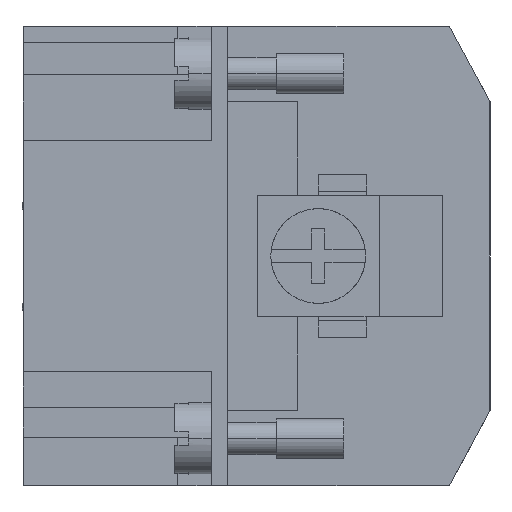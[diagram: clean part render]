
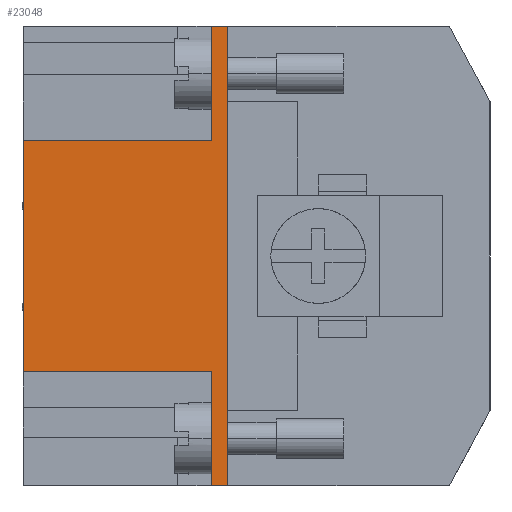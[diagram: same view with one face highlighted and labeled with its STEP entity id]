
A CAD part, left-side view. The second image highlights one B-rep face of the part: STEP entity #23048.
In plain terms, the highlighted planar face has unit normal (-1, 0, 0).
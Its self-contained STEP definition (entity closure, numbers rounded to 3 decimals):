
#640 = CARTESIAN_POINT ( 'NONE',  ( -55.5, -15.1, -17. ) ) ;
#699 = VECTOR ( 'NONE', #19934, 1000. ) ;
#1513 = PLANE ( 'NONE',  #20453 ) ;
#1731 = DIRECTION ( 'NONE',  ( 0., 0., 1. ) ) ;
#2489 = EDGE_CURVE ( 'NONE', #14979, #13708, #21863, .T. ) ;
#2505 = VERTEX_POINT ( 'NONE', #2883 ) ;
#2870 = VERTEX_POINT ( 'NONE', #8911 ) ;
#2883 = CARTESIAN_POINT ( 'NONE',  ( -55.5, -13.9, -17. ) ) ;
#3524 = VERTEX_POINT ( 'NONE', #22246 ) ;
#3917 = ORIENTED_EDGE ( 'NONE', *, *, #2489, .F. ) ;
#3918 = DIRECTION ( 'NONE',  ( -1., 0., 0. ) ) ;
#5048 = DIRECTION ( 'NONE',  ( 0., 1., 0. ) ) ;
#5177 = CARTESIAN_POINT ( 'NONE',  ( -55.5, -13.9, -17. ) ) ;
#5189 = LINE ( 'NONE', #13496, #699 ) ;
#5295 = EDGE_CURVE ( 'NONE', #2505, #15604, #6695, .T. ) ;
#5722 = ORIENTED_EDGE ( 'NONE', *, *, #25746, .T. ) ;
#5891 = CARTESIAN_POINT ( 'NONE',  ( -55.5, -34.108, 8.55 ) ) ;
#6140 = EDGE_CURVE ( 'NONE', #17540, #3524, #14940, .T. ) ;
#6695 = LINE ( 'NONE', #15081, #12566 ) ;
#6895 = VECTOR ( 'NONE', #8302, 1000. ) ;
#7066 = EDGE_LOOP ( 'NONE', ( #3917, #5722, #8315, #24806, #17286, #12179, #7461, #15233 ) ) ;
#7348 = VECTOR ( 'NONE', #1731, 1000. ) ;
#7461 = ORIENTED_EDGE ( 'NONE', *, *, #20566, .F. ) ;
#8087 = VECTOR ( 'NONE', #21952, 1000. ) ;
#8302 = DIRECTION ( 'NONE',  ( 0., 1., 0. ) ) ;
#8315 = ORIENTED_EDGE ( 'NONE', *, *, #6140, .F. ) ;
#8911 = CARTESIAN_POINT ( 'NONE',  ( -55.5, -15.1, 17. ) ) ;
#10736 = DIRECTION ( 'NONE',  ( 0., 0., -1. ) ) ;
#10847 = LINE ( 'NONE', #17477, #8087 ) ;
#11889 = CARTESIAN_POINT ( 'NONE',  ( -55.5, -13.9, -8.55 ) ) ;
#12179 = ORIENTED_EDGE ( 'NONE', *, *, #5295, .T. ) ;
#12300 = VECTOR ( 'NONE', #5048, 1000. ) ;
#12566 = VECTOR ( 'NONE', #19589, 1000. ) ;
#13496 = CARTESIAN_POINT ( 'NONE',  ( -55.5, -13.9, -17. ) ) ;
#13708 = VERTEX_POINT ( 'NONE', #18967 ) ;
#14898 = DIRECTION ( 'NONE',  ( 0., 1., 0. ) ) ;
#14940 = LINE ( 'NONE', #16459, #7348 ) ;
#14979 = VERTEX_POINT ( 'NONE', #24617 ) ;
#15081 = CARTESIAN_POINT ( 'NONE',  ( -55.5, -13.9, -17. ) ) ;
#15233 = ORIENTED_EDGE ( 'NONE', *, *, #19798, .F. ) ;
#15604 = VERTEX_POINT ( 'NONE', #640 ) ;
#16459 = CARTESIAN_POINT ( 'NONE',  ( -55.5, 0., 8.55 ) ) ;
#17165 = CARTESIAN_POINT ( 'NONE',  ( -55.5, -34.108, 8.55 ) ) ;
#17286 = ORIENTED_EDGE ( 'NONE', *, *, #25950, .F. ) ;
#17477 = CARTESIAN_POINT ( 'NONE',  ( -55.5, -13.9, 17. ) ) ;
#17540 = VERTEX_POINT ( 'NONE', #26096 ) ;
#18212 = CARTESIAN_POINT ( 'NONE',  ( -55.5, -34.108, -8.55 ) ) ;
#18700 = EDGE_CURVE ( 'NONE', #25577, #17540, #26825, .T. ) ;
#18967 = CARTESIAN_POINT ( 'NONE',  ( -55.5, -13.9, 17. ) ) ;
#19042 = VECTOR ( 'NONE', #10736, 1000. ) ;
#19589 = DIRECTION ( 'NONE',  ( 0., -1., 0. ) ) ;
#19798 = EDGE_CURVE ( 'NONE', #13708, #2870, #10847, .T. ) ;
#19934 = DIRECTION ( 'NONE',  ( 0., 0., 1. ) ) ;
#20453 = AXIS2_PLACEMENT_3D ( 'NONE', #17165, #3918, #14898 ) ;
#20566 = EDGE_CURVE ( 'NONE', #2870, #15604, #24959, .T. ) ;
#21822 = CARTESIAN_POINT ( 'NONE',  ( -55.5, -15.1, 8.55 ) ) ;
#21863 = LINE ( 'NONE', #5177, #25714 ) ;
#21952 = DIRECTION ( 'NONE',  ( 0., -1., 0. ) ) ;
#22246 = CARTESIAN_POINT ( 'NONE',  ( -55.5, 0., 8.55 ) ) ;
#23048 = ADVANCED_FACE ( 'NONE', ( #25917 ), #1513, .T. ) ;
#23099 = DIRECTION ( 'NONE',  ( 0., 0., 1. ) ) ;
#24617 = CARTESIAN_POINT ( 'NONE',  ( -55.5, -13.9, 8.55 ) ) ;
#24806 = ORIENTED_EDGE ( 'NONE', *, *, #18700, .F. ) ;
#24959 = LINE ( 'NONE', #21822, #19042 ) ;
#25577 = VERTEX_POINT ( 'NONE', #11889 ) ;
#25714 = VECTOR ( 'NONE', #23099, 1000. ) ;
#25746 = EDGE_CURVE ( 'NONE', #14979, #3524, #26278, .T. ) ;
#25917 = FACE_OUTER_BOUND ( 'NONE', #7066, .T. ) ;
#25950 = EDGE_CURVE ( 'NONE', #2505, #25577, #5189, .T. ) ;
#26096 = CARTESIAN_POINT ( 'NONE',  ( -55.5, 0., -8.55 ) ) ;
#26278 = LINE ( 'NONE', #5891, #6895 ) ;
#26825 = LINE ( 'NONE', #18212, #12300 ) ;
